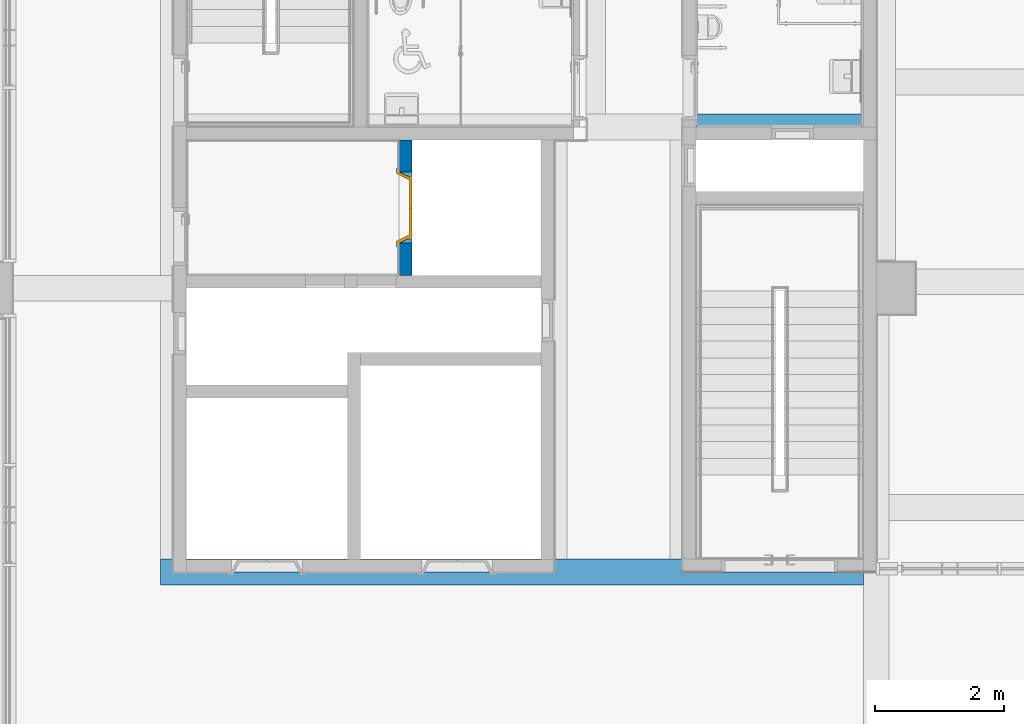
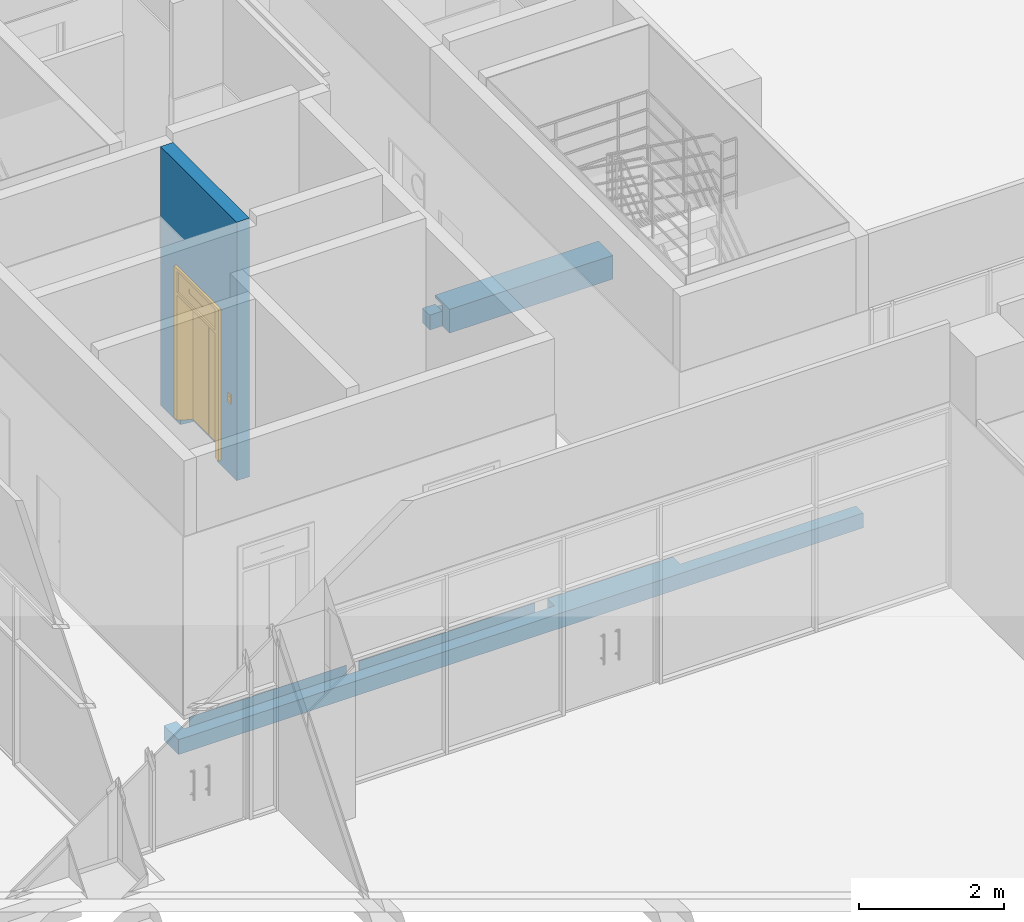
# One storey, part 64 of 74: 2 beams, 1 door, 1 wall, 1 opening.
"""IFC2X3 building model written with IfcOpenShell, lengths in millimetres."""

from ifc_helpers import new_model, entity, si_unit, converted_unit, derived_unit, direction, frame, frame_2d, origin, place, context, subcontext, project, spatial, rectangle, extrude, faceted_brep, source, transform, mapped, material, material_list, layer, layer_set, type_object, type_shapes, element, fill, save


model = new_model("IFC2X3")

# Units and contexts
model_context = context("Model", 3, precision=0.01, world=origin(), true_north=direction((6.123031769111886e-17, 1.0)))
body_context = subcontext(model_context, "Body", "Model", "MODEL_VIEW")
ifc_project = project(units=[si_unit("LENGTHUNIT", "METRE", prefix="MILLI"), si_unit("AREAUNIT", "SQUARE_METRE"), si_unit("VOLUMEUNIT", "CUBIC_METRE"), converted_unit("PLANEANGLEUNIT", "DEGREE", entity("IfcRatioMeasure", 0.017453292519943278), si_unit("PLANEANGLEUNIT", "RADIAN"), dimensions=[0, 0, 0, 0, 0, 0, 0]), si_unit("MASSUNIT", "GRAM", prefix="KILO"), derived_unit("MASSDENSITYUNIT", [(si_unit("MASSUNIT", "GRAM", prefix="KILO"), 1), (si_unit("LENGTHUNIT", "METRE"), -3)]), derived_unit("MOMENTOFINERTIAUNIT", [(si_unit("LENGTHUNIT", "METRE"), 4)]), si_unit("TIMEUNIT", "SECOND"), si_unit("FREQUENCYUNIT", "HERTZ"), si_unit("THERMODYNAMICTEMPERATUREUNIT", "DEGREE_CELSIUS"), derived_unit("THERMALTRANSMITTANCEUNIT", [(si_unit("MASSUNIT", "GRAM", prefix="KILO"), 1), (si_unit("THERMODYNAMICTEMPERATUREUNIT", "KELVIN"), -1), (si_unit("TIMEUNIT", "SECOND"), -3)]), derived_unit("VOLUMETRICFLOWRATEUNIT", [(si_unit("LENGTHUNIT", "METRE"), 3), (si_unit("TIMEUNIT", "SECOND"), -1)]), derived_unit("MASSFLOWRATEUNIT", [(si_unit("MASSUNIT", "GRAM", prefix="KILO"), 1), (si_unit("TIMEUNIT", "SECOND"), -1)]), derived_unit("ROTATIONALFREQUENCYUNIT", [(si_unit("TIMEUNIT", "SECOND"), -1)]), si_unit("ELECTRICCURRENTUNIT", "AMPERE"), si_unit("ELECTRICVOLTAGEUNIT", "VOLT"), si_unit("POWERUNIT", "WATT"), si_unit("FORCEUNIT", "NEWTON", prefix="KILO"), si_unit("ILLUMINANCEUNIT", "LUX"), si_unit("LUMINOUSFLUXUNIT", "LUMEN"), si_unit("LUMINOUSINTENSITYUNIT", "CANDELA"), derived_unit("USERDEFINED", [(si_unit("MASSUNIT", "GRAM", prefix="KILO"), -1), (si_unit("LENGTHUNIT", "METRE"), -2), (si_unit("TIMEUNIT", "SECOND"), 3), (si_unit("LUMINOUSFLUXUNIT", "LUMEN"), 1)]), derived_unit("SOUNDPOWERUNIT", [(si_unit("MASSUNIT", "GRAM", prefix="KILO"), 1), (si_unit("LENGTHUNIT", "METRE"), 2), (si_unit("TIMEUNIT", "SECOND"), -3)]), derived_unit("SOUNDPRESSUREUNIT", [(si_unit("MASSUNIT", "GRAM", prefix="KILO"), 1), (si_unit("LENGTHUNIT", "METRE"), -1), (si_unit("TIMEUNIT", "SECOND"), -2)]), derived_unit("LINEARVELOCITYUNIT", [(si_unit("LENGTHUNIT", "METRE"), 1), (si_unit("TIMEUNIT", "SECOND"), -1)]), si_unit("PRESSUREUNIT", "PASCAL"), derived_unit("USERDEFINED", [(si_unit("LENGTHUNIT", "METRE"), -2), (si_unit("MASSUNIT", "GRAM", prefix="KILO"), 1), (si_unit("TIMEUNIT", "SECOND"), -2)]), derived_unit("LINEARFORCEUNIT", [(si_unit("MASSUNIT", "GRAM", prefix="KILO"), 1), (si_unit("LENGTHUNIT", "METRE"), 1), (si_unit("TIMEUNIT", "SECOND"), -2), (si_unit("LENGTHUNIT", "METRE"), -1)]), derived_unit("PLANARFORCEUNIT", [(si_unit("MASSUNIT", "GRAM", prefix="KILO"), 1), (si_unit("LENGTHUNIT", "METRE"), 1), (si_unit("TIMEUNIT", "SECOND"), -2), (si_unit("LENGTHUNIT", "METRE"), -2)])], contexts=[model_context])

# Site, building, storey
site_placement = place(None, frame((-14167.972527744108, -657.2125860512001, 0.0)))
site = spatial("IfcSite", under=ifc_project, at=site_placement, Name="Default", CompositionType="ELEMENT")
building_placement = place(site_placement, origin())
building = spatial("IfcBuilding", under=site, at=building_placement, Name="Sample Building", CompositionType="ELEMENT")
storey_placement = place(building_placement, frame((0.0, 0.0, 4800.0)))
storey = spatial("IfcBuildingStorey", under=building, at=storey_placement, Name="지상 2층", CompositionType="ELEMENT", Elevation=4800.000000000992)

# Beams
ifc_material_1 = material(Name="KBIMS-콘크리트")
ifc_material_list_1 = material_list([ifc_material_1, ifc_material_1, ifc_material_1])
ifc_material_list_2 = material_list([ifc_material_1, ifc_material_1, ifc_material_1])
beam_type_1 = type_object("IfcBeamType", Name="BM111-철근콘크리트구조 보:BM110-철근 콘크리트구조 보_400 x 400_2-10WG1", PredefinedType="BEAM", material=ifc_material_list_2)
shared_shape_1 = source(origin(), body_context, "Body", "Brep", [
    faceted_brep([(0.0, 400.0, 0.0), (0.0, 400.0, 250.0), (198.1793656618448, 400.0, 250.0), (198.1793656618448, 400.0, 0.0), (0.0, 0.0, 0.0), (198.1793656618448, 196.09034288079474, 0.0), (6100.026042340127, 196.09034288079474, 0.0), (6100.026042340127, 400.0, 0.0), (6300.008692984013, 400.0, 0.0), (7900.0, 400.0, 0.0), (8100.017349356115, 400.0, 0.0), (8100.0173493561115, 199.99969094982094, 0.0), (10900.008692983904, 199.99969094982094, 0.0), (10900.008692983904, 0.0, 0.0), (10900.008692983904, 0.0, 250.0), (0.0, 0.0, 250.0), (10900.008692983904, 199.99969094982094, 250.0), (198.1793656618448, 396.0903428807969, 250.0), (198.1793656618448, 196.0903428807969, 250.0), (6100.026042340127, 196.09034288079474, 250.0), (6100.026042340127, 396.09034288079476, 250.0), (6100.026042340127, 400.0, 250.0), (8100.017349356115, 199.99969094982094, 250.0), (8100.017349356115, 400.0, 250.0), (7900.0, 400.0, 250.0), (6300.008692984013, 400.0, 250.0)], [[[0, 1, 2, 3]], [[4, 0, 3, 5, 6, 7, 8, 9, 10, 11, 12, 13]], [[4, 13, 14, 15]], [[0, 4, 15, 1]], [[14, 13, 12, 16]], [[3, 2, 17, 18, 5]], [[5, 18, 19, 6]], [[6, 19, 20, 21, 7]], [[15, 14, 16, 22, 23, 24, 25, 21, 20, 19, 18, 17, 2, 1]], [[7, 21, 25, 24, 23, 10, 9, 8]], [[11, 22, 16, 12]], [[22, 11, 10, 23]]]),
    faceted_brep([(400.0173493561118, 400.0, 250.0), (398.1793656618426, 400.0, 250.0), (398.1793656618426, 396.09034288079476, 250.0), (2900.0262682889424, 396.09034288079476, 250.0), (2900.0262682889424, 400.0, 250.0), (398.1793656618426, 400.0, 0.0), (398.1793656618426, 396.0903428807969, 0.0), (2900.0262682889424, 400.0, 0.0), (400.0, 400.0, 0.0), (2900.0262682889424, 396.09034288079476, 0.0)], [[[0, 1, 2, 3, 4]], [[1, 5, 6, 2]], [[1, 0, 4, 7, 8, 5]], [[9, 7, 4, 3]], [[6, 5, 8, 7, 9]], [[2, 6, 9, 3]]]),
    faceted_brep([(3100.0262682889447, 396.09034288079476, 250.0), (3100.0262682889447, 396.09034288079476, 0.0), (5900.026042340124, 396.09034288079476, 0.0), (5900.026042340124, 396.0903428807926, 250.0), (3100.0262682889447, 400.0, 0.0), (3100.0262682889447, 400.0, 250.0), (5900.0260423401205, 400.0, 250.0), (5900.026042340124, 400.0, 0.0)], [[[0, 1, 2, 3]], [[4, 1, 0, 5]], [[6, 5, 0, 3]], [[5, 6, 7, 4]], [[2, 7, 6, 3]], [[1, 4, 7, 2]]]),
])
type_shapes(beam_type_1, [shared_shape_1])
beam_1_placement = place(storey_placement, frame((29867.946448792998, 15357.21260419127, -400.0)))
element("IfcBeam", 1, at=beam_1_placement, inside=storey, type_object=beam_type_1, material=ifc_material_list_1, Name="BM111-철근콘크리트구조 보:BM110-철근 콘크리트구조 보_400 x 400_2-10WG1", ObjectType="BM111-철근콘크리트구조 보:BM110-철근 콘크리트구조 보_400 x 400_2-10WG1", context=body_context, shape_type="MappedRepresentation", body=[
    mapped(shared_shape_1, transform((0.0, 0.0, 0.0), scale=1.0)),
])
beam_type_2 = type_object("IfcBeamType", Name="BM111-철근콘크리트구조 보:BM110-철근 콘크리트구조 보_400 x 400_2-10B5", PredefinedType="NOTDEFINED")
beam_2_placement = place(storey_placement, frame((37967.9637981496, 22257.212482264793, -400.0)))
element("IfcBeam", 2, at=beam_2_placement, inside=storey, type_object=beam_type_2, material=ifc_material_1, Name="BM111-철근콘크리트구조 보:BM110-철근 콘크리트구조 보_400 x 400_2-10B5", ObjectType="BM111-철근콘크리트구조 보:BM110-철근 콘크리트구조 보_400 x 400_2-10B5", context=body_context, shape_type="Brep", body=[
    faceted_brep([(2800.008809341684, 0.0, 400.0), (2800.008809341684, 400.0, 400.0), (199.99126388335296, 400.0, 400.0), (199.9956319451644, 199.99982897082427, 400.0), (200.0, 0.0, 400.0), (2800.008809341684, 0.0, 0.0), (200.0, 0.0, 0.0), (2800.0088093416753, 400.0, 0.0), (200.0, 199.9998162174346, 0.0), (0.0, 199.9998162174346, 0.0), (0.0, 400.0, 0.0), (2800.0088093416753, 400.0, 350.0), (199.99126388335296, 400.0, 350.0), (2800.008809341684, 400.0, 200.0), (2800.008809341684, 199.99982122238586, 200.0), (2800.008809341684, 199.99982122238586, 350.0), (199.99126388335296, 400.0, 250.0), (0.0, 400.0, 250.0), (0.0, 199.9998162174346, 250.0), (200.0, 199.99982122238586, 250.0), (200.0, 400.0, 350.0), (200.0, 199.99982122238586, 350.0), (200.0, 199.99982022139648, 200.0), (200.0, 199.99982122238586, 200.0), (200.0, 400.0, 200.0), (2800.01738597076, 199.99982122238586, 350.0), (2800.01738597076, 199.99982122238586, 200.0), (200.0, 400.0, 250.0), (199.99563194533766, 199.9998162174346, 250.0)], [[[0, 1, 2, 3, 4]], [[5, 0, 4, 6]], [[7, 5, 6, 8, 9, 10]], [[1, 11, 12, 2]], [[1, 0, 5, 7, 13, 14, 15, 11]], [[16, 17, 18, 19]], [[2, 20, 21, 19, 22, 8, 6, 4, 3]], [[23, 14, 13, 24]], [[25, 21, 12, 11]], [[26, 23, 19, 21, 15]], [[19, 23, 24, 27]], [[17, 27, 24, 13, 7, 10]], [[8, 22, 28, 18, 9]], [[17, 10, 9, 18]]]),
])

# Wall, opening, door
ifc_layer = layer(ifc_material_1, 200.0)
ifc_layer_set = layer_set([ifc_layer], Name="기본 벽:WA111-철근콘크리트구조 벽 200mm_CW1")
wall_type = type_object("IfcWallType", Name="기본 벽:WA111-철근콘크리트구조 벽 200mm_CW1", PredefinedType="STANDARD", material=ifc_layer_set)
wall_placement = place(storey_placement, frame((33667.97249113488, 22257.212311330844, -1.9340006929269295e-09), z_axis=(0.0, 0.0, 1.0), x_axis=(0.0, -1.0, 0.0)))
wall = element("IfcWall", 3, at=wall_placement, inside=storey, type_object=wall_type, Name="기본 벽:WA111-철근콘크리트구조 벽 200mm_CW1", ObjectType="기본 벽:WA111-철근콘크리트구조 벽 200mm_CW1", context=body_context, shape_type="Brep", body=[
    faceted_brep([(2100.0, -100.0, 4350.0), (0.0, -100.0, 4350.0), (0.0, -100.0, 0.0), (542.891388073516, -100.0, 0.0), (542.891388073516, -100.0, 80.0), (500.0000016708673, -100.0, 80.0), (500.0000016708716, -100.0, 2630.0), (1600.0, -100.0, 2630.0), (1600.0, -100.0, 80.0), (1557.108615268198, -100.0, 80.0), (1557.1086152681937, -100.0, 0.0), (2100.0, -100.0, 0.0), (2100.0, 100.0, 0.0), (0.0, 100.0, 0.0), (0.0, 100.0, 4350.0), (2100.0, 100.0, 4350.0), (500.0000016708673, 100.0, 2630.0), (500.0000016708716, 100.0, 80.0), (1600.0, 100.0, 80.0), (1600.0, 100.0, 2630.0), (1529.7770699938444, 98.15332333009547, 0.0), (570.2229333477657, 98.15332333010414, 0.0), (570.2229333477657, 98.15332333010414, 80.0), (1529.7770699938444, 98.15332333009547, 80.0)], [[[0, 1, 2, 3, 4, 5, 6, 7, 8, 9, 10, 11]], [[12, 13, 14, 15], [16, 17, 18, 19]], [[13, 12, 11, 10, 20, 21, 3, 2]], [[13, 2, 1, 14]], [[11, 12, 15, 0]], [[1, 0, 15, 14]], [[21, 22, 4, 3]], [[22, 21, 20, 23]], [[23, 20, 10, 9]], [[6, 5, 17, 16]], [[7, 6, 16, 19]], [[8, 7, 19, 18]], [[18, 17, 5, 4, 22, 23, 9, 8]]]),
])
opening_placement = place(wall_placement, frame((500.0000016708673, -100.0, 80.0)))
opening = element("IfcOpeningElement", 4, at=opening_placement, cuts=wall, Name="EE111-엘리베이터문(문):EE111-엘리베이터문(13인승)_1100x2550:1", ObjectType="Opening", context=body_context, shape_type="SweptSolid", body=[
    extrude(rectangle(XDim=2549.999999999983, YDim=1099.9999999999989, at=frame_2d((1274.9999999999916, 550.0000000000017), x_axis=(1.0, 0.0))), frame((0.0, 0.0, 0.0), z_axis=(0.0, 1.0, 0.0), x_axis=(0.0, 0.0, 1.0)), (0.0, 0.0, 1.0), 200.0),
])
ifc_material_2 = material(Name="<Unnamed>")
ifc_material_list_3 = material_list([ifc_material_2, ifc_material_2, ifc_material_2, ifc_material_2])
door_style = type_object("IfcDoorStyle", Name="EE111-엘리베이터문(문):EE111-엘리베이터문(13인승)_1100x2550", ConstructionType="NOTDEFINED", OperationType="DOUBLE_DOOR_SLIDING", ParameterTakesPrecedence=False, Sizeable=False, material=ifc_material_list_3)
shared_shape_2 = source(origin(), body_context, "Body", "Brep", [
    faceted_brep([(-296.2736811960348, 220.43384628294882, 1175.0), (-313.5941892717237, 220.4338462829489, 1145.0), (-330.9146973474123, 220.43384628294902, 1175.0), (-296.2736811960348, 215.04269782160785, 1175.0), (-330.9146973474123, 215.0426978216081, 1175.0), (-313.5941892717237, 215.04269782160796, 1145.0)], [[[0, 1, 2]], [[3, 4, 5]], [[1, 0, 3, 5]], [[2, 1, 5, 4]], [[0, 2, 4, 3]]]),
    faceted_brep([(-330.9146973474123, 220.43384628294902, 1225.0), (-296.2736811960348, 220.43384628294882, 1225.0), (-296.2736811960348, 215.04269782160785, 1225.0), (-330.9146973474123, 215.04269782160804, 1225.0), (-313.5941892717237, 220.4338462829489, 1255.0), (-313.5941892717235, 215.04269782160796, 1255.0)], [[[0, 1, 2, 3]], [[4, 0, 3, 5]], [[1, 4, 5, 2]], [[2, 5, 3]], [[1, 0, 4]]]),
    faceted_brep([(-351.5567877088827, 215.0426978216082, 1277.0326998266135), (-275.63159083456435, 215.04269782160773, 1277.0326998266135), (-275.63159083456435, 215.04269782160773, 1122.967300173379), (-351.5567877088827, 215.0426978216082, 1122.967300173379), (-351.55678770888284, 200.0, 1277.0326998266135), (-351.55678770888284, 200.0, 1122.967300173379), (-275.6315908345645, 200.0, 1122.967300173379), (-275.6315908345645, 200.0, 1277.0326998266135)], [[[0, 1, 2, 3]], [[4, 5, 6, 7]], [[1, 0, 4, 7]], [[2, 1, 7, 6]], [[3, 2, 6, 5]], [[0, 3, 5, 4]]]),
    faceted_brep([(-60.0, 200.0, 2550.0), (-60.0, 240.0, 2550.0), (-60.0, 240.0, 0.0), (-60.0, 200.0, 0.0), (703.014298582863, 240.0, 2550.0), (703.014298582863, 240.0, 2500.0), (27.911234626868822, 240.0, 2500.0), (27.911234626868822, 240.0, 2150.0), (703.014298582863, 240.0, 2150.0), (703.014298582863, 240.0, 2100.0), (27.911234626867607, 240.0, 2100.0), (27.911234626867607, 240.0, 0.0), (978.5926496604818, 40.0, 0.0), (1078.5926496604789, 240.0, 0.0), (1160.0, 240.0, 0.0), (1160.0, 200.0, 0.0), (1100.0, 200.0, 0.0), (1000.0, 0.0, 0.0), (555.0, 0.0, 0.0), (555.0, 40.0, 0.0), (0.0, 200.0, 2550.0), (0.0, 200.0, 0.0), (100.0, 0.0, 2550.0), (100.0, 0.0, 0.0), (1000.0, 0.0, 2550.0), (545.0, 0.0, 0.0), (545.0, 0.0, 2100.0), (555.0, 0.0, 2100.0), (545.0, 40.0, 0.0), (545.0, 40.0, 2100.0), (555.0, 40.0, 2100.0), (1100.0, 200.0, 2550.0), (1160.0, 200.0, 2550.0), (1160.0, 240.0, 2550.0), (1078.5926496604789, 240.0, 2100.0), (1078.5926496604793, 240.0, 2150.0), (1078.5926496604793, 240.0, 2500.0), (978.5926496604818, 40.0, 2100.0), (127.91123462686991, 40.0, 0.0), (127.91123462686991, 40.0, 2100.0), (1078.5926496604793, 214.08728771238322, 2150.0), (1078.5926496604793, 214.08728771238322, 2500.0), (27.911234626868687, 214.0872877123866, 2500.0), (27.911234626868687, 214.0872877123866, 2150.0), (550.0, 214.08728771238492, 2370.0), (410.8272722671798, 214.08728771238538, 2370.0), (410.8272722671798, 214.08728771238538, 2300.0), (550.0, 214.08728771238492, 2300.0), (789.172727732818, 214.08728771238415, 2300.0), (789.172727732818, 214.08728771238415, 2370.0), (550.0, 208.4787281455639, 2370.0), (410.8272722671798, 208.47872814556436, 2370.0), (410.8272722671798, 208.47872814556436, 2300.0), (789.172727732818, 208.47872814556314, 2300.0), (789.172727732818, 208.47872814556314, 2370.0), (550.0, 208.4787281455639, 2300.0)], [[[0, 1, 2, 3]], [[2, 1, 4, 5, 6, 7, 8, 9, 10, 11]], [[12, 13, 14, 15, 16, 17, 18, 19]], [[20, 0, 3, 21]], [[22, 20, 21, 23]], [[24, 22, 23, 25, 26, 27, 18, 17]], [[25, 28, 29, 26]], [[19, 18, 27, 30]], [[31, 24, 17, 16]], [[32, 31, 16, 15]], [[33, 32, 15, 14]], [[4, 33, 14, 13, 34, 9, 8, 35, 36, 5]], [[13, 12, 37, 34]], [[38, 11, 10, 39]], [[38, 39, 29, 28]], [[37, 12, 19, 30]], [[1, 0, 20, 22, 24, 31, 32, 33, 4]], [[40, 41, 36, 35]], [[41, 42, 6, 5, 36]], [[42, 43, 7, 6]], [[43, 42, 41, 40], [44, 45, 46, 47, 48, 49]], [[50, 51, 45, 44]], [[51, 52, 46, 45]], [[53, 54, 49, 48]], [[54, 50, 44, 49]], [[50, 54, 53, 55, 52, 51]], [[10, 9, 34, 37, 30, 27, 26, 29, 39]], [[43, 40, 35, 8, 7]], [[52, 55, 47, 46]], [[55, 53, 48, 47]], [[21, 3, 2, 11, 38, 28, 25, 23]]]),
])
type_shapes(door_style, [shared_shape_2])
door_placement = place(opening_placement, frame((1100.0, 200.0, 1.9335857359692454e-09), z_axis=(0.0, 0.0, 1.0), x_axis=(-1.0, 0.0, 0.0)))
door = element("IfcDoor", 5, at=door_placement, inside=storey, type_object=door_style, material=ifc_material_2, Name="EE111-엘리베이터문(문):EE111-엘리베이터문(13인승)_1100x2550", ObjectType="EE111-엘리베이터문(문):EE111-엘리베이터문(13인승)_1100x2550", OverallHeight=2549.999999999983, OverallWidth=1100.0000000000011, context=body_context, shape_type="MappedRepresentation", body=[
    mapped(shared_shape_2, transform((0.0, 0.0, 0.0), scale=1.0)),
])
fill(opening, door)

save(model, "model.ifc")
